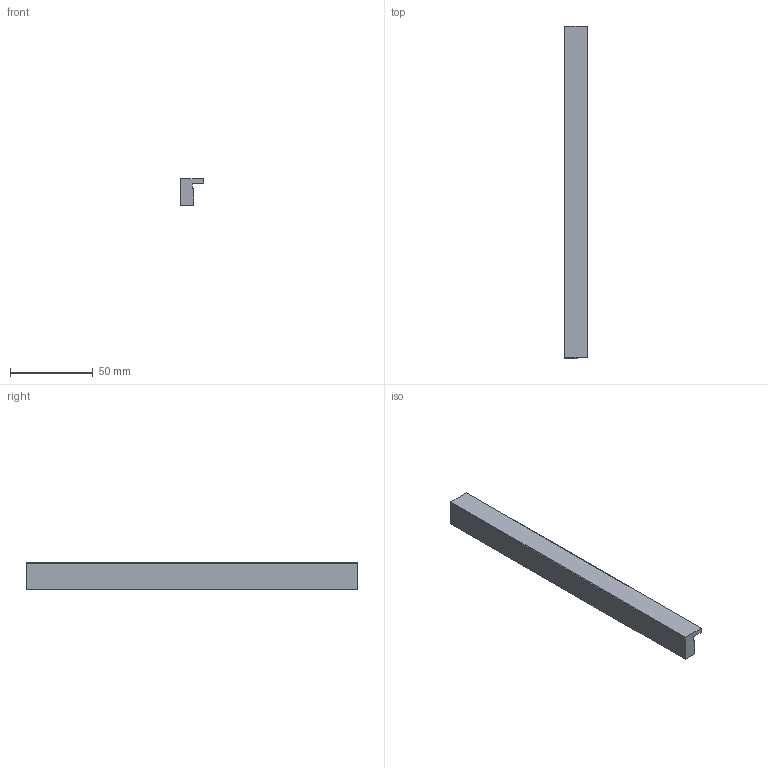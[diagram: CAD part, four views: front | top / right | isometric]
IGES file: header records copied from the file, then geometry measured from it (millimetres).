
Start section: C
Global section: file name: 8214.igs; native system: By Siemens PLM Incorporated; preprocessor: XPlus GENERIC/IGES 16.0.42; author: Author; organization: Title; date: 20200903.163951; units: millimetre
Bounding box: 14 x 200 x 16 mm (x, y, z)
Surface area: 12774.8 mm2 (no closed solid volume)
Topology: 0 solids, 0 shells, 17 faces, 86 edges, 86 vertices
Faces by surface type: bspline 17
